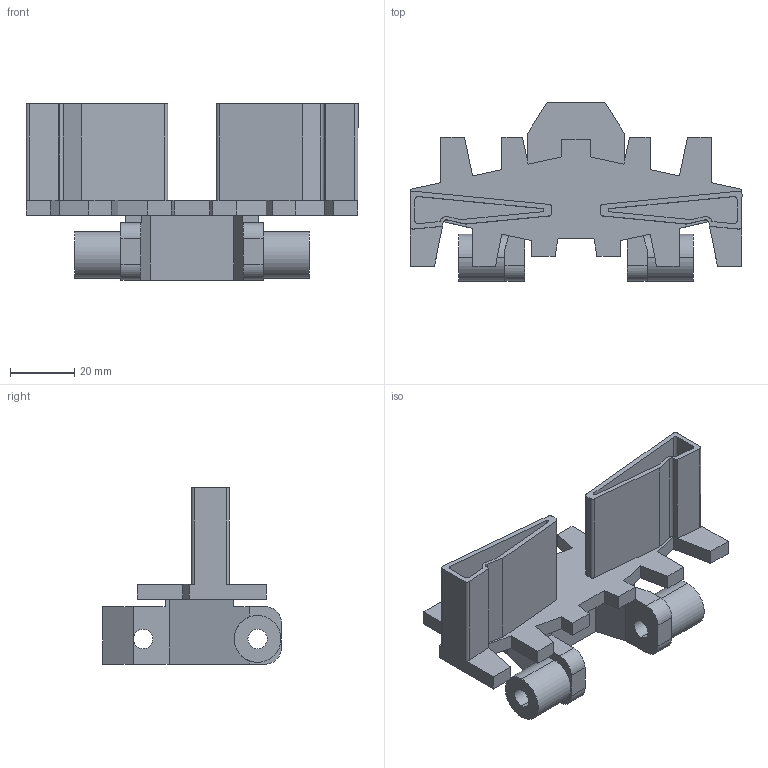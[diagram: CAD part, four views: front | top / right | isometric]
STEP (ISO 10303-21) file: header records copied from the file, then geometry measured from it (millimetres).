
FILE_DESCRIPTION (( 'STEP AP214' ), '1' );
FILE_NAME ('FCCT 5A30.step', '2017-04-04T13:29:00', ( '' ), ( '' ), 'SwSTEP 2.0', 'SolidWorks 2015', '' );
FILE_SCHEMA (( 'AUTOMOTIVE_DESIGN' ));
Length unit declared in the file: millimetre
Products named in the file (1): FCCT 5A30
Bounding box: 103 x 55.39 x 54.75 mm (x, y, z)
Volume: 47579.4 mm3; surface area: 26706.6 mm2
Topology: 1 solids, 1 shells, 136 faces, 393 edges, 262 vertices
Faces by surface type: plane 99, cylinder 37
Entity records: 4501 total; most frequent: CARTESIAN_POINT 798, ORIENTED_EDGE 786, DIRECTION 743, EDGE_CURVE 393, VECTOR 313, LINE 313, VERTEX_POINT 262, AXIS2_PLACEMENT_3D 215
